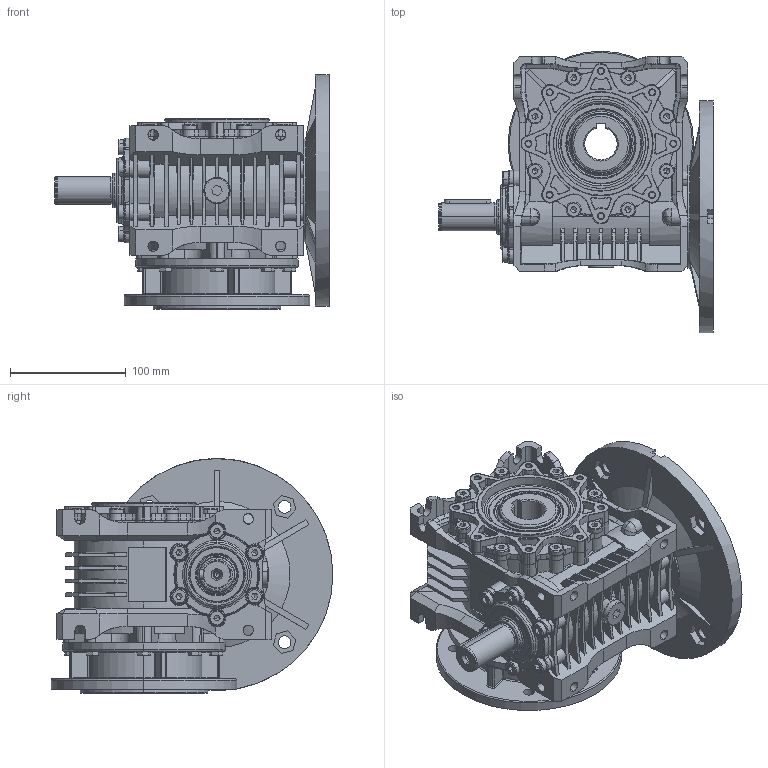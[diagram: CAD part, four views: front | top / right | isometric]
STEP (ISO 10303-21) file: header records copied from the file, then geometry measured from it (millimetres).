
FILE_DESCRIPTION (( 'STEP AP203' ), '1' );
FILE_NAME ('MR-63_200-24_K160-1_3D.STEP', '2023-09-26T11:58:33', ( '' ), ( '' ), 'SwSTEP 2.0', 'SolidWorks 2022', '' );
FILE_SCHEMA (( 'CONFIG_CONTROL_DESIGN' ));
Length unit declared in the file: millimetre
Products named in the file (1): MR-63_200-24_K160-1_3D
Bounding box: 237 x 243 x 202.5 mm (x, y, z)
Volume: 2447315.5 mm3; surface area: 443300.3 mm2
Topology: 1 solids, 79 shells, 4008 faces, 9872 edges, 6037 vertices
Faces by surface type: plane 1440, cone 890, cylinder 799, torus 392, bspline 334, sphere 153
Entity records: 126718 total; most frequent: CARTESIAN_POINT 35193, ORIENTED_EDGE 19440, DIRECTION 19134, EDGE_CURVE 9720, AXIS2_PLACEMENT_3D 7506, VERTEX_POINT 6015, EDGE_LOOP 4223, VECTOR 4122
